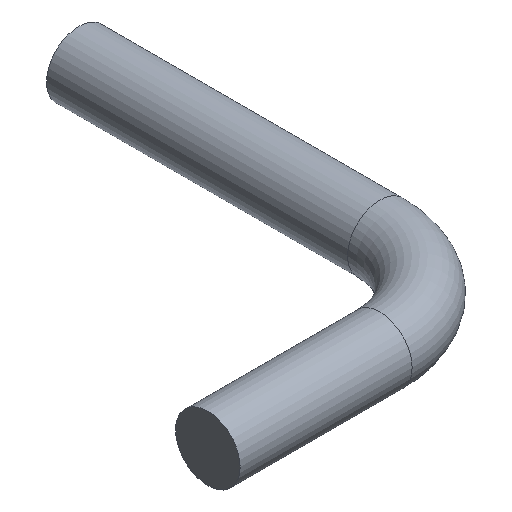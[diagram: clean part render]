
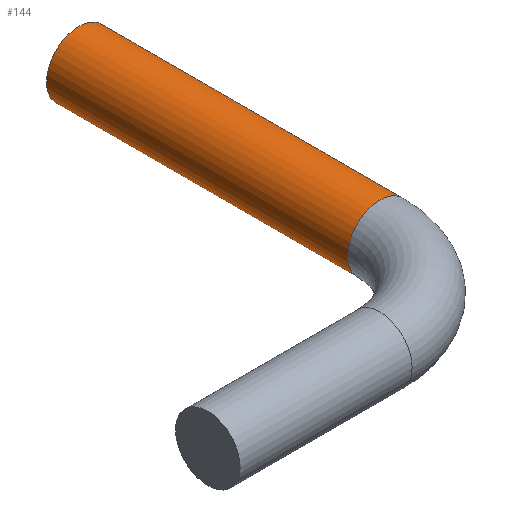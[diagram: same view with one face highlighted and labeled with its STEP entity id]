
A CAD part, isometric view. The second image highlights one B-rep face of the part: STEP entity #144.
In plain terms, the highlighted cylindrical face has radius 6 mm (diameter 12 mm), a full revolution.
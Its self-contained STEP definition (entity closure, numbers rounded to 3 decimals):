
#63=CYLINDRICAL_SURFACE('',#134,6.);
#66=ORIENTED_EDGE('',*,*,#81,.T.);
#67=ORIENTED_EDGE('',*,*,#82,.F.);
#73=CIRCLE('',#133,6.);
#74=CIRCLE('',#135,6.);
#77=VERTEX_POINT('',#120);
#78=VERTEX_POINT('',#123);
#81=EDGE_CURVE('',#77,#77,#73,.T.);
#82=EDGE_CURVE('',#78,#78,#74,.T.);
#86=EDGE_LOOP('',(#66));
#87=EDGE_LOOP('',(#67));
#94=FACE_BOUND('',#86,.T.);
#95=FACE_BOUND('',#87,.T.);
#103=DIRECTION('',(0.,-1.,0.));
#104=DIRECTION('',(0.,0.,6.));
#105=DIRECTION('',(0.,-1.,0.));
#106=DIRECTION('',(1.,0.,0.));
#107=DIRECTION('',(0.,-1.,0.));
#108=DIRECTION('',(0.,0.,6.));
#120=CARTESIAN_POINT('',(441.2,4397.6,6.));
#121=CARTESIAN_POINT('',(441.2,4397.6,0.));
#122=CARTESIAN_POINT('',(441.2,4397.6,0.));
#123=CARTESIAN_POINT('',(441.2,4341.6,6.));
#124=CARTESIAN_POINT('',(441.2,4341.6,0.));
#133=AXIS2_PLACEMENT_3D('',#121,#103,#104);
#134=AXIS2_PLACEMENT_3D('',#122,#105,#106);
#135=AXIS2_PLACEMENT_3D('',#124,#107,#108);
#144=ADVANCED_FACE('',(#94,#95),#63,.T.);
